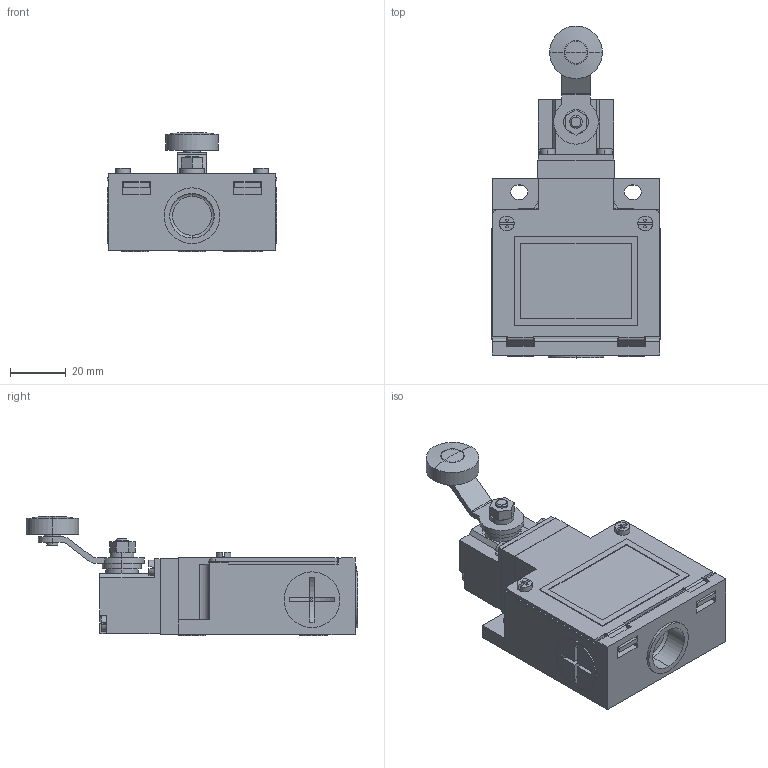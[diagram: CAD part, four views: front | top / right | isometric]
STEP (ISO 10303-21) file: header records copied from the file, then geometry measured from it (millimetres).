
FILE_DESCRIPTION (( 'STEP AP203' ), '1' );
FILE_NAME ('TZE15.STEP', '2018-02-07T13:41:48', ( '' ), ( '' ), 'SwSTEP 2.0', 'SolidWorks 2012', '' );
FILE_SCHEMA (( 'CONFIG_CONTROL_DESIGN' ));
Length unit declared in the file: millimetre
Products named in the file (1): TZE15
Bounding box: 61 x 119.1 x 43.05 mm (x, y, z)
Volume: 115542 mm3; surface area: 22086.5 mm2
Topology: 1 solids, 1 shells, 359 faces, 917 edges, 587 vertices
Faces by surface type: plane 260, cylinder 91, sphere 4, cone 2, torus 2
Entity records: 10844 total; most frequent: CARTESIAN_POINT 1972, ORIENTED_EDGE 1834, DIRECTION 1825, EDGE_CURVE 917, LINE 657, VECTOR 657, VERTEX_POINT 587, AXIS2_PLACEMENT_3D 584
